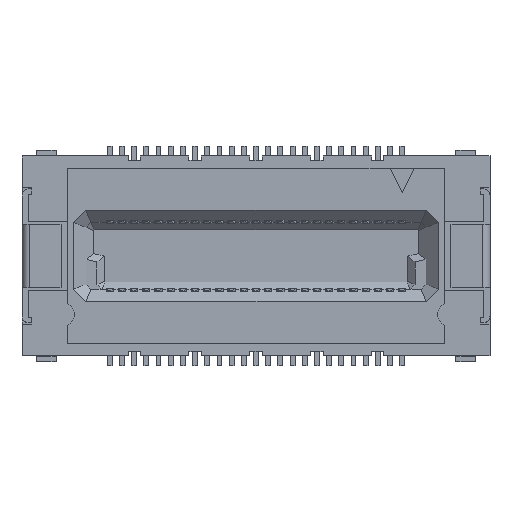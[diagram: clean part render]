
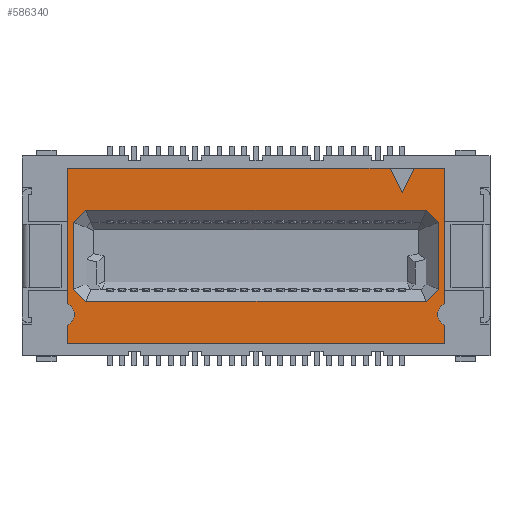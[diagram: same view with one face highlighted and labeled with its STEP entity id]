
A CAD part, top view. The second image highlights one B-rep face of the part: STEP entity #586340.
In plain terms, the highlighted planar face has unit normal (0, 0, 1).
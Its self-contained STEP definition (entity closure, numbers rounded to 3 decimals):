
#2320=CARTESIAN_POINT('',(20.034,-0.955,4.));
#2330=VERTEX_POINT('',#2320);
#2360=CARTESIAN_POINT('',(19.787,-1.202,4.));
#2370=DIRECTION('',(-0.707,-0.707,0.));
#2380=VECTOR('',#2370,1.);
#2390=LINE('',#2360,#2380);
#2400=CARTESIAN_POINT('',(19.541,-1.448,4.));
#2410=VERTEX_POINT('',#2400);
#2420=EDGE_CURVE('',#2330,#2410,#2390,.T.);
#39860=CARTESIAN_POINT('',(19.541,2.292,4.));
#39870=VERTEX_POINT('',#39860);
#39900=CARTESIAN_POINT('',(19.787,2.045,4.));
#39910=DIRECTION('',(0.707,-0.707,0.));
#39920=VECTOR('',#39910,1.);
#39930=LINE('',#39900,#39920);
#39940=CARTESIAN_POINT('',(20.034,1.799,4.));
#39950=VERTEX_POINT('',#39940);
#39960=EDGE_CURVE('',#39870,#39950,#39930,.T.);
#79110=CARTESIAN_POINT('',(5.576,2.292,4.));
#79120=VERTEX_POINT('',#79110);
#79150=CARTESIAN_POINT('',(-6.946,2.292,4.));
#79160=DIRECTION('',(1.,0.,0.));
#79170=VECTOR('',#79160,1.);
#79180=LINE('',#79150,#79170);
#79190=EDGE_CURVE('',#79120,#39870,#79180,.T.);
#87330=CARTESIAN_POINT('',(20.309,-1.52,4.));
#87340=VERTEX_POINT('',#87330);
#87500=CARTESIAN_POINT('',(20.309,-2.436,4.));
#87510=VERTEX_POINT('',#87500);
#87540=CARTESIAN_POINT('',(20.509,-1.978,4.));
#87550=DIRECTION('',(0.,0.,1.));
#87560=DIRECTION('',(1.,0.,0.));
#87570=AXIS2_PLACEMENT_3D('',#87540,#87550,#87560);
#87580=CIRCLE('',#87570,0.5);
#87590=EDGE_CURVE('',#87340,#87510,#87580,.T.);
#87730=CARTESIAN_POINT('',(20.309,-3.178,4.));
#87740=VERTEX_POINT('',#87730);
#87790=CARTESIAN_POINT('',(20.309,0.,4.));
#87800=DIRECTION('',(0.,-1.,0.));
#87810=VECTOR('',#87800,1.);
#87820=LINE('',#87790,#87810);
#87830=EDGE_CURVE('',#87510,#87740,#87820,.T.);
#93260=CARTESIAN_POINT('',(17.048,0.,4.));
#93270=DIRECTION('',(0.447,0.894,0.));
#93280=VECTOR('',#93270,1.);
#93290=LINE('',#93260,#93280);
#93300=CARTESIAN_POINT('',(18.559,3.022,4.));
#93310=VERTEX_POINT('',#93300);
#93320=CARTESIAN_POINT('',(19.059,4.022,4.));
#93330=VERTEX_POINT('',#93320);
#93340=EDGE_CURVE('',#93310,#93330,#93290,.T.);
#184450=CARTESIAN_POINT('',(20.07,0.,4.));
#184460=DIRECTION('',(0.447,-0.894,0.));
#184470=VECTOR('',#184460,1.);
#184480=LINE('',#184450,#184470);
#184490=CARTESIAN_POINT('',(18.059,4.022,4.));
#184500=VERTEX_POINT('',#184490);
#184510=EDGE_CURVE('',#184500,#93310,#184480,.T.);
#234480=CARTESIAN_POINT('',(20.309,0.,4.));
#234490=DIRECTION('',(0.,-1.,0.));
#234500=VECTOR('',#234490,1.);
#234510=LINE('',#234480,#234500);
#234520=CARTESIAN_POINT('',(20.309,4.022,4.));
#234530=VERTEX_POINT('',#234520);
#234540=EDGE_CURVE('',#234530,#87340,#234510,.T.);
#313400=CARTESIAN_POINT('',(20.034,0.422,4.));
#313410=DIRECTION('',(0.,1.,0.));
#313420=VECTOR('',#313410,1.);
#313430=LINE('',#313400,#313420);
#313440=EDGE_CURVE('',#2330,#39950,#313430,.T.);
#440820=CARTESIAN_POINT('',(5.576,-1.448,4.));
#440830=VERTEX_POINT('',#440820);
#440860=CARTESIAN_POINT('',(5.33,-1.202,4.));
#440870=DIRECTION('',(0.707,-0.707,0.));
#440880=VECTOR('',#440870,1.);
#440890=LINE('',#440860,#440880);
#440900=CARTESIAN_POINT('',(5.084,-0.955,4.));
#440910=VERTEX_POINT('',#440900);
#440920=EDGE_CURVE('',#440910,#440830,#440890,.T.);
#579410=CARTESIAN_POINT('',(5.084,1.799,4.));
#579420=VERTEX_POINT('',#579410);
#579450=CARTESIAN_POINT('',(5.33,2.045,4.));
#579460=DIRECTION('',(-0.707,-0.707,0.));
#579470=VECTOR('',#579460,1.);
#579480=LINE('',#579450,#579470);
#579490=EDGE_CURVE('',#79120,#579420,#579480,.T.);
#579600=CARTESIAN_POINT('',(5.084,0.422,4.));
#579610=DIRECTION('',(0.,1.,0.));
#579620=VECTOR('',#579610,1.);
#579630=LINE('',#579600,#579620);
#579640=EDGE_CURVE('',#440910,#579420,#579630,.T.);
#585620=CARTESIAN_POINT('',(-8.081,-1.448,4.));
#585630=DIRECTION('',(-1.,0.,0.));
#585640=VECTOR('',#585630,1.);
#585650=LINE('',#585620,#585640);
#585660=EDGE_CURVE('',#2410,#440830,#585650,.T.);
#585710=CARTESIAN_POINT('',(3.809,-2.313,4.));
#585720=DIRECTION('',(0.,0.,1.));
#585730=DIRECTION('',(1.,0.,0.));
#585740=AXIS2_PLACEMENT_3D('',#585710,#585720,#585730);
#585750=PLANE('',#585740);
#585760=CARTESIAN_POINT('',(4.809,0.,4.));
#585770=DIRECTION('',(0.,1.,0.));
#585780=VECTOR('',#585770,1.);
#585790=LINE('',#585760,#585780);
#585800=CARTESIAN_POINT('',(4.809,-3.178,4.));
#585810=VERTEX_POINT('',#585800);
#585820=CARTESIAN_POINT('',(4.809,-2.436,4.));
#585830=VERTEX_POINT('',#585820);
#585840=EDGE_CURVE('',#585810,#585830,#585790,.T.);
#585850=ORIENTED_EDGE('',*,*,#585840,.F.);
#585860=CARTESIAN_POINT('',(4.609,-1.978,4.));
#585870=DIRECTION('',(0.,0.,-1.));
#585880=DIRECTION('',(-1.,0.,0.));
#585890=AXIS2_PLACEMENT_3D('',#585860,#585870,#585880);
#585900=CIRCLE('',#585890,0.5);
#585910=CARTESIAN_POINT('',(4.809,-1.52,4.));
#585920=VERTEX_POINT('',#585910);
#585930=EDGE_CURVE('',#585920,#585830,#585900,.T.);
#585940=ORIENTED_EDGE('',*,*,#585930,.T.);
#585950=CARTESIAN_POINT('',(4.809,4.022,4.));
#585960=VERTEX_POINT('',#585950);
#585970=EDGE_CURVE('',#585920,#585960,#585790,.T.);
#585980=ORIENTED_EDGE('',*,*,#585970,.F.);
#585990=CARTESIAN_POINT('',(27.5,4.022,4.));
#586000=DIRECTION('',(-1.,0.,0.));
#586010=VECTOR('',#586000,1.);
#586020=LINE('',#585990,#586010);
#586030=EDGE_CURVE('',#184500,#585960,#586020,.T.);
#586040=ORIENTED_EDGE('',*,*,#586030,.T.);
#586050=ORIENTED_EDGE('',*,*,#184510,.F.);
#586060=ORIENTED_EDGE('',*,*,#93340,.F.);
#586070=CARTESIAN_POINT('',(5.,4.022,4.));
#586080=DIRECTION('',(-1.,0.,0.));
#586090=VECTOR('',#586080,1.);
#586100=LINE('',#586070,#586090);
#586110=EDGE_CURVE('',#234530,#93330,#586100,.T.);
#586120=ORIENTED_EDGE('',*,*,#586110,.T.);
#586130=ORIENTED_EDGE('',*,*,#234540,.F.);
#586140=ORIENTED_EDGE('',*,*,#87590,.F.);
#586150=ORIENTED_EDGE('',*,*,#87830,.F.);
#586160=CARTESIAN_POINT('',(25.117,-3.178,4.));
#586170=DIRECTION('',(-1.,0.,0.));
#586180=VECTOR('',#586170,1.);
#586190=LINE('',#586160,#586180);
#586200=EDGE_CURVE('',#87740,#585810,#586190,.T.);
#586210=ORIENTED_EDGE('',*,*,#586200,.F.);
#586220=EDGE_LOOP('',(#586210,#586150,#586140,#586130,#586120,#586060,
#586050,#586040,#585980,#585940,#585850));
#586230=FACE_OUTER_BOUND('',#586220,.T.);
#586240=ORIENTED_EDGE('',*,*,#2420,.T.);
#586250=ORIENTED_EDGE('',*,*,#313440,.F.);
#586260=ORIENTED_EDGE('',*,*,#39960,.T.);
#586270=ORIENTED_EDGE('',*,*,#79190,.T.);
#586280=ORIENTED_EDGE('',*,*,#579490,.F.);
#586290=ORIENTED_EDGE('',*,*,#579640,.T.);
#586300=ORIENTED_EDGE('',*,*,#440920,.F.);
#586310=ORIENTED_EDGE('',*,*,#585660,.T.);
#586320=EDGE_LOOP('',(#586310,#586300,#586290,#586280,#586270,#586260,
#586250,#586240));
#586330=FACE_BOUND('',#586320,.T.);
#586340=ADVANCED_FACE('',(#586230,#586330),#585750,.T.);
